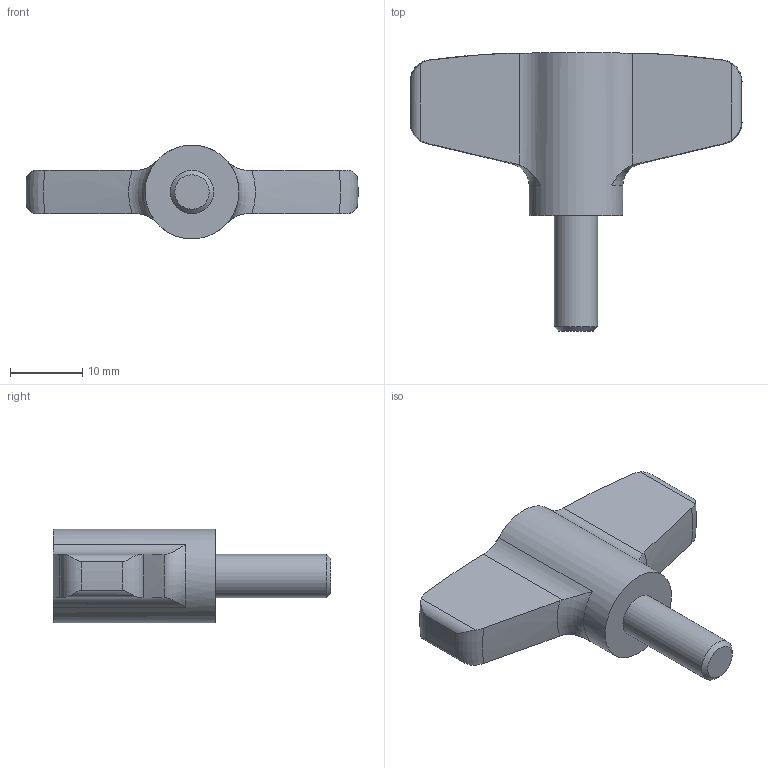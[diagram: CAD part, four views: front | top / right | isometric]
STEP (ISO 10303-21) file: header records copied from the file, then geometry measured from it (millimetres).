
FILE_DESCRIPTION( ( 'STEP AP203' ), '1' );
FILE_NAME( 'C:/Temp/Ganter_Step_05_03_2020/data/2_2/gn_835/Stainless Steel-Wing screw GN 835-46-M6-16-MT.stp', '2020-03-05T12:19:29', ( 'License CC BY-ND 4.0' ), ( 'CADENAS' ), ' ', 'PARTsolutions', ' ' );
FILE_SCHEMA( ( 'CONFIG_CONTROL_DESIGN' ) );
Length unit declared in the file: millimetre
Products named in the file (1): _Stainless Steel-Wing screw GN 835-46-M6-16-MT
Bounding box: 45.98 x 38.5 x 13 mm (x, y, z)
Volume: 6152.6 mm3; surface area: 2669.2 mm2
Topology: 1 solids, 1 shells, 30 faces, 76 edges, 49 vertices
Faces by surface type: cylinder 12, plane 7, torus 6, cone 3, bspline 2
Full cylindrical faces by diameter (mm): 6 x1, 13 x1
Entity records: 1162 total; most frequent: CARTESIAN_POINT 473, ORIENTED_EDGE 144, DIRECTION 114, EDGE_CURVE 72, AXIS2_PLACEMENT_3D 49, VERTEX_POINT 48, B_SPLINE_CURVE_WITH_KNOTS 36, EDGE_LOOP 34
